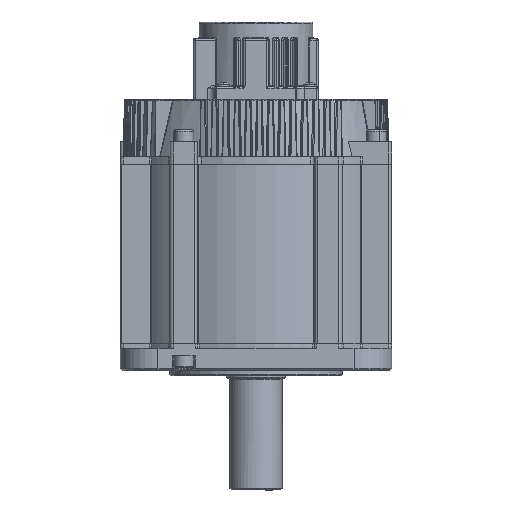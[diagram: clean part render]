
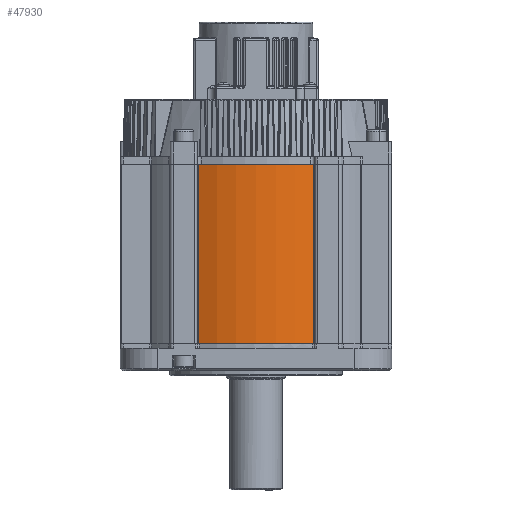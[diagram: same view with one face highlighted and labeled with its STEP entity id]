
A CAD part, front view. The second image highlights one B-rep face of the part: STEP entity #47930.
In plain terms, the highlighted cylindrical face has radius 90 mm (diameter 180 mm), a partial arc.
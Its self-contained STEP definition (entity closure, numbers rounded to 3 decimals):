
#480 = EDGE_CURVE ( 'NONE', #34730, #46542, #98264, .T. ) ;
#843 = CARTESIAN_POINT ( 'NONE',  ( -38.287, -81.45, 192. ) ) ;
#1170 = DIRECTION ( 'NONE',  ( -1., 0., 0. ) ) ;
#1744 = EDGE_CURVE ( 'NONE', #34730, #68458, #62207, .T. ) ;
#1803 = DIRECTION ( 'NONE',  ( 0., 0., 1. ) ) ;
#1825 = ORIENTED_EDGE ( 'NONE', *, *, #48439, .T. ) ;
#3582 = ORIENTED_EDGE ( 'NONE', *, *, #92146, .F. ) ;
#7388 = VERTEX_POINT ( 'NONE', #31096 ) ;
#12979 = VECTOR ( 'NONE', #46356, 1000. ) ;
#13409 = ORIENTED_EDGE ( 'NONE', *, *, #480, .T. ) ;
#13650 = ORIENTED_EDGE ( 'NONE', *, *, #1744, .F. ) ;
#23894 = DIRECTION ( 'NONE',  ( 0., 0., 1. ) ) ;
#27430 = CARTESIAN_POINT ( 'NONE',  ( -38.287, -81.45, 73. ) ) ;
#28881 = CARTESIAN_POINT ( 'NONE',  ( -38.287, -81.45, 192. ) ) ;
#30197 = DIRECTION ( 'NONE',  ( 0., 0., -1. ) ) ;
#30217 = DIRECTION ( 'NONE',  ( 1., 0., 0. ) ) ;
#30859 = FACE_OUTER_BOUND ( 'NONE', #30861, .T. ) ;
#30861 = EDGE_LOOP ( 'NONE', ( #13409, #1825, #3582, #13650 ) ) ;
#31073 = CARTESIAN_POINT ( 'NONE',  ( 38.287, -81.45, 192. ) ) ;
#31096 = CARTESIAN_POINT ( 'NONE',  ( 38.287, -81.45, 73. ) ) ;
#34730 = VERTEX_POINT ( 'NONE', #843 ) ;
#37862 = CARTESIAN_POINT ( 'NONE',  ( 0., 0., 192. ) ) ;
#38018 = LINE ( 'NONE', #31073, #12979 ) ;
#45077 = CYLINDRICAL_SURFACE ( 'NONE', #65357, 90. ) ;
#46356 = DIRECTION ( 'NONE',  ( 0., 0., -1. ) ) ;
#46542 = VERTEX_POINT ( 'NONE', #27430 ) ;
#47930 = ADVANCED_FACE ( 'NONE', ( #30859 ), #45077, .T. ) ;
#48439 = EDGE_CURVE ( 'NONE', #46542, #7388, #66485, .T. ) ;
#53424 = CARTESIAN_POINT ( 'NONE',  ( 38.287, -81.45, 192. ) ) ;
#54891 = DIRECTION ( 'NONE',  ( 0., 0., -1. ) ) ;
#61883 = DIRECTION ( 'NONE',  ( -1., 0., 0. ) ) ;
#62207 = CIRCLE ( 'NONE', #97985, 90. ) ;
#64764 = AXIS2_PLACEMENT_3D ( 'NONE', #70097, #1803, #1170 ) ;
#65357 = AXIS2_PLACEMENT_3D ( 'NONE', #91938, #54891, #61883 ) ;
#66485 = CIRCLE ( 'NONE', #64764, 90. ) ;
#68458 = VERTEX_POINT ( 'NONE', #53424 ) ;
#70097 = CARTESIAN_POINT ( 'NONE',  ( 0., 0., 73. ) ) ;
#82675 = VECTOR ( 'NONE', #30197, 1000. ) ;
#91938 = CARTESIAN_POINT ( 'NONE',  ( 0., 0., 192. ) ) ;
#92146 = EDGE_CURVE ( 'NONE', #68458, #7388, #38018, .T. ) ;
#97985 = AXIS2_PLACEMENT_3D ( 'NONE', #37862, #23894, #30217 ) ;
#98264 = LINE ( 'NONE', #28881, #82675 ) ;
